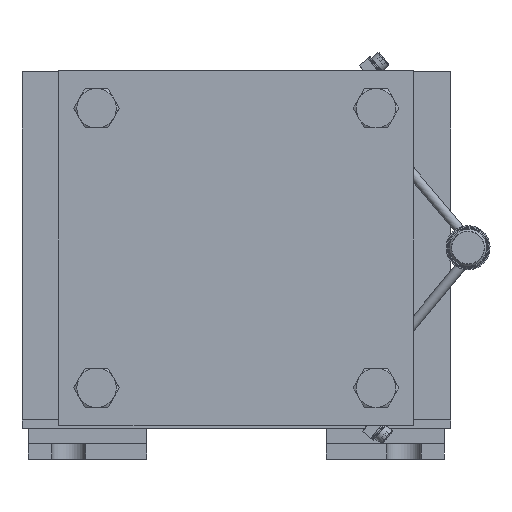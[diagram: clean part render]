
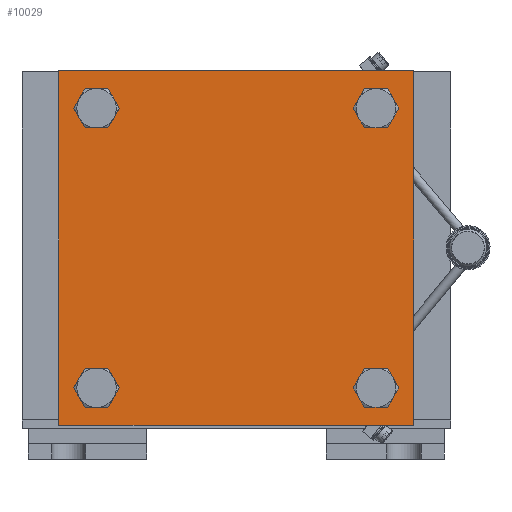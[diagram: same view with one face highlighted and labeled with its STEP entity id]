
A CAD part, front view. The second image highlights one B-rep face of the part: STEP entity #10029.
In plain terms, the highlighted planar face has unit normal (0, -1, 0) as drawn and (0, 0, 1) by its records, which use the part's own axes.
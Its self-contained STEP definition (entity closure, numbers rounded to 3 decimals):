
#549=LINE($,#15573,#1355);
#553=LINE($,#15581,#1359);
#556=LINE($,#15587,#1362);
#559=LINE($,#15592,#1365);
#1355=VECTOR($,#12381,114.3);
#1359=VECTOR($,#12387,114.3);
#1362=VECTOR($,#12392,114.3);
#1365=VECTOR($,#12397,114.3);
#2089=PLANE($,#10846);
#2488=FACE_BOUND($,#3809,.T.);
#2489=FACE_BOUND($,#3810,.T.);
#2490=FACE_BOUND($,#3811,.T.);
#2491=FACE_BOUND($,#3812,.T.);
#3060=FACE_OUTER_BOUND($,#3808,.T.);
#3808=EDGE_LOOP($,(#7760,#7761,#7762,#7763));
#3809=EDGE_LOOP($,(#7764));
#3810=EDGE_LOOP($,(#7765));
#3811=EDGE_LOOP($,(#7766));
#3812=EDGE_LOOP($,(#7767));
#4642=CIRCLE($,#10824,4.25);
#4644=CIRCLE($,#10827,4.25);
#4646=CIRCLE($,#10830,4.25);
#4648=CIRCLE($,#10833,4.25);
#5165=VERTEX_POINT($,#15541);
#5167=VERTEX_POINT($,#15546);
#5169=VERTEX_POINT($,#15551);
#5171=VERTEX_POINT($,#15556);
#5176=VERTEX_POINT($,#15571);
#5177=VERTEX_POINT($,#15572);
#5180=VERTEX_POINT($,#15580);
#5182=VERTEX_POINT($,#15586);
#6167=EDGE_CURVE($,#5165,#5165,#4642,.T.);
#6169=EDGE_CURVE($,#5167,#5167,#4644,.T.);
#6171=EDGE_CURVE($,#5169,#5169,#4646,.T.);
#6173=EDGE_CURVE($,#5171,#5171,#4648,.T.);
#6178=EDGE_CURVE($,#5176,#5177,#549,.T.);
#6182=EDGE_CURVE($,#5177,#5180,#553,.T.);
#6185=EDGE_CURVE($,#5180,#5182,#556,.T.);
#6188=EDGE_CURVE($,#5182,#5176,#559,.T.);
#7760=ORIENTED_EDGE($,*,*,#6178,.F.);
#7761=ORIENTED_EDGE($,*,*,#6188,.F.);
#7762=ORIENTED_EDGE($,*,*,#6185,.F.);
#7763=ORIENTED_EDGE($,*,*,#6182,.F.);
#7764=ORIENTED_EDGE($,*,*,#6167,.T.);
#7765=ORIENTED_EDGE($,*,*,#6169,.T.);
#7766=ORIENTED_EDGE($,*,*,#6171,.T.);
#7767=ORIENTED_EDGE($,*,*,#6173,.T.);
#10029=ADVANCED_FACE($,(#3060,#2488,#2489,#2490,#2491),#2089,.T.);
#10824=AXIS2_PLACEMENT_3D($,#15542,#12343,#12344);
#10827=AXIS2_PLACEMENT_3D($,#15547,#12349,#12350);
#10830=AXIS2_PLACEMENT_3D($,#15552,#12355,#12356);
#10833=AXIS2_PLACEMENT_3D($,#15557,#12361,#12362);
#10846=AXIS2_PLACEMENT_3D($,#15594,#12399,#12400);
#12343=DIRECTION('center_axis',(0.,0.,-1.));
#12344=DIRECTION('ref_axis',(1.,0.,0.));
#12349=DIRECTION('center_axis',(0.,0.,-1.));
#12350=DIRECTION('ref_axis',(1.,0.,0.));
#12355=DIRECTION('center_axis',(0.,0.,-1.));
#12356=DIRECTION('ref_axis',(1.,0.,0.));
#12361=DIRECTION('center_axis',(0.,0.,-1.));
#12362=DIRECTION('ref_axis',(1.,0.,0.));
#12381=DIRECTION($,(0.,-1.,0.));
#12387=DIRECTION($,(-1.,0.,0.));
#12392=DIRECTION($,(0.,1.,0.));
#12397=DIRECTION($,(1.,0.,0.));
#12399=DIRECTION('center_axis',(0.,0.,1.));
#12400=DIRECTION('ref_axis',(1.,0.,0.));
#15541=CARTESIAN_POINT('',(49.25,-45.,30.));
#15542=CARTESIAN_POINT('Origin',(45.,-45.,30.));
#15546=CARTESIAN_POINT('',(49.25,45.,30.));
#15547=CARTESIAN_POINT('Origin',(45.,45.,30.));
#15551=CARTESIAN_POINT('',(-40.75,45.,30.));
#15552=CARTESIAN_POINT('Origin',(-45.,45.,30.));
#15556=CARTESIAN_POINT('',(-40.75,-45.,30.));
#15557=CARTESIAN_POINT('Origin',(-45.,-45.,30.));
#15571=CARTESIAN_POINT('',(57.15,57.15,30.));
#15572=CARTESIAN_POINT('',(57.15,-57.15,30.));
#15573=CARTESIAN_POINT($,(57.15,57.15,30.));
#15580=CARTESIAN_POINT('',(-57.15,-57.15,30.));
#15581=CARTESIAN_POINT($,(57.15,-57.15,30.));
#15586=CARTESIAN_POINT('',(-57.15,57.15,30.));
#15587=CARTESIAN_POINT($,(-57.15,-57.15,30.));
#15592=CARTESIAN_POINT($,(-57.15,57.15,30.));
#15594=CARTESIAN_POINT('Origin',(0.,0.,
30.));
